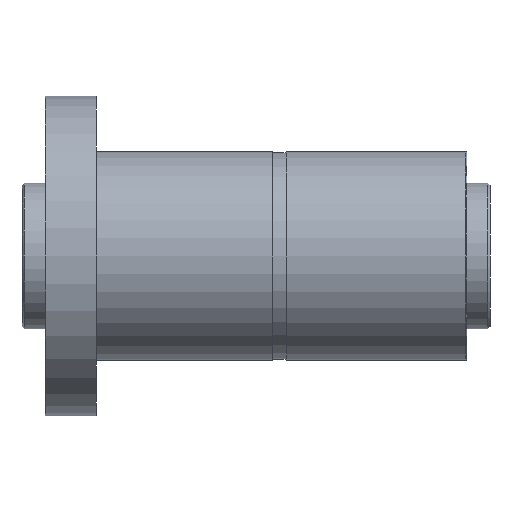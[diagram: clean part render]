
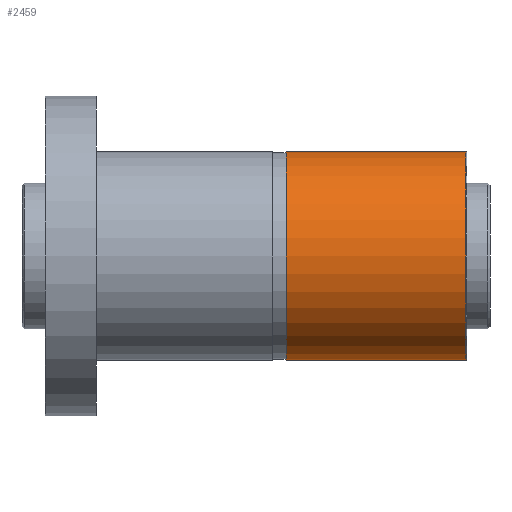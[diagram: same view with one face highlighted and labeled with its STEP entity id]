
A CAD part, front view. The second image highlights one B-rep face of the part: STEP entity #2459.
In plain terms, the highlighted cylindrical face has radius 45 mm (diameter 90 mm), a partial arc.
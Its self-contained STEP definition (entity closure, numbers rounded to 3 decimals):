
#46 = CARTESIAN_POINT ( 'NONE',  ( 104., 0., 45. ) ) ;
#115 = DIRECTION ( 'NONE',  ( 1., 0., 0. ) ) ;
#182 = EDGE_LOOP ( 'NONE', ( #1328, #1201, #2582, #1039 ) ) ;
#336 = AXIS2_PLACEMENT_3D ( 'NONE', #4271, #1307, #3614 ) ;
#432 = VERTEX_POINT ( 'NONE', #3089 ) ;
#1039 = ORIENTED_EDGE ( 'NONE', *, *, #1401, .T. ) ;
#1161 = EDGE_CURVE ( 'NONE', #2090, #432, #3742, .T. ) ;
#1201 = ORIENTED_EDGE ( 'NONE', *, *, #1161, .T. ) ;
#1307 = DIRECTION ( 'NONE',  ( -1., 0., 0. ) ) ;
#1328 = ORIENTED_EDGE ( 'NONE', *, *, #4068, .F. ) ;
#1336 = CYLINDRICAL_SURFACE ( 'NONE', #3398, 45. ) ;
#1385 = FACE_OUTER_BOUND ( 'NONE', #182, .T. ) ;
#1401 = EDGE_CURVE ( 'NONE', #3988, #4203, #2659, .T. ) ;
#1412 = DIRECTION ( 'NONE',  ( -1., 0., 0. ) ) ;
#1498 = VECTOR ( 'NONE', #3881, 1000. ) ;
#1607 = LINE ( 'NONE', #2881, #1498 ) ;
#1635 = DIRECTION ( 'NONE',  ( -1., 0., 0. ) ) ;
#1873 = AXIS2_PLACEMENT_3D ( 'NONE', #3747, #115, #3433 ) ;
#2051 = CARTESIAN_POINT ( 'NONE',  ( 182., 0., 0. ) ) ;
#2090 = VERTEX_POINT ( 'NONE', #4229 ) ;
#2459 = ADVANCED_FACE ( 'NONE', ( #1385 ), #1336, .T. ) ;
#2582 = ORIENTED_EDGE ( 'NONE', *, *, #3952, .T. ) ;
#2659 = CIRCLE ( 'NONE', #1873, 45. ) ;
#2745 = CARTESIAN_POINT ( 'NONE',  ( 104., 0., -45. ) ) ;
#2881 = CARTESIAN_POINT ( 'NONE',  ( 182., 0., 45. ) ) ;
#3089 = CARTESIAN_POINT ( 'NONE',  ( 181.5, 0., 45. ) ) ;
#3106 = DIRECTION ( 'NONE',  ( 0., 0., 1. ) ) ;
#3107 = VECTOR ( 'NONE', #1635, 1000. ) ;
#3398 = AXIS2_PLACEMENT_3D ( 'NONE', #2051, #1412, #3106 ) ;
#3433 = DIRECTION ( 'NONE',  ( 0., 0., -1. ) ) ;
#3604 = CARTESIAN_POINT ( 'NONE',  ( 182., 0., -45. ) ) ;
#3614 = DIRECTION ( 'NONE',  ( 0., 0., -1. ) ) ;
#3742 = CIRCLE ( 'NONE', #336, 45. ) ;
#3747 = CARTESIAN_POINT ( 'NONE',  ( 104., 0., 0. ) ) ;
#3881 = DIRECTION ( 'NONE',  ( -1., 0., 0. ) ) ;
#3952 = EDGE_CURVE ( 'NONE', #432, #3988, #1607, .T. ) ;
#3988 = VERTEX_POINT ( 'NONE', #46 ) ;
#4068 = EDGE_CURVE ( 'NONE', #2090, #4203, #4251, .T. ) ;
#4203 = VERTEX_POINT ( 'NONE', #2745 ) ;
#4229 = CARTESIAN_POINT ( 'NONE',  ( 181.5, 0., -45. ) ) ;
#4251 = LINE ( 'NONE', #3604, #3107 ) ;
#4271 = CARTESIAN_POINT ( 'NONE',  ( 181.5, 0., 0. ) ) ;
